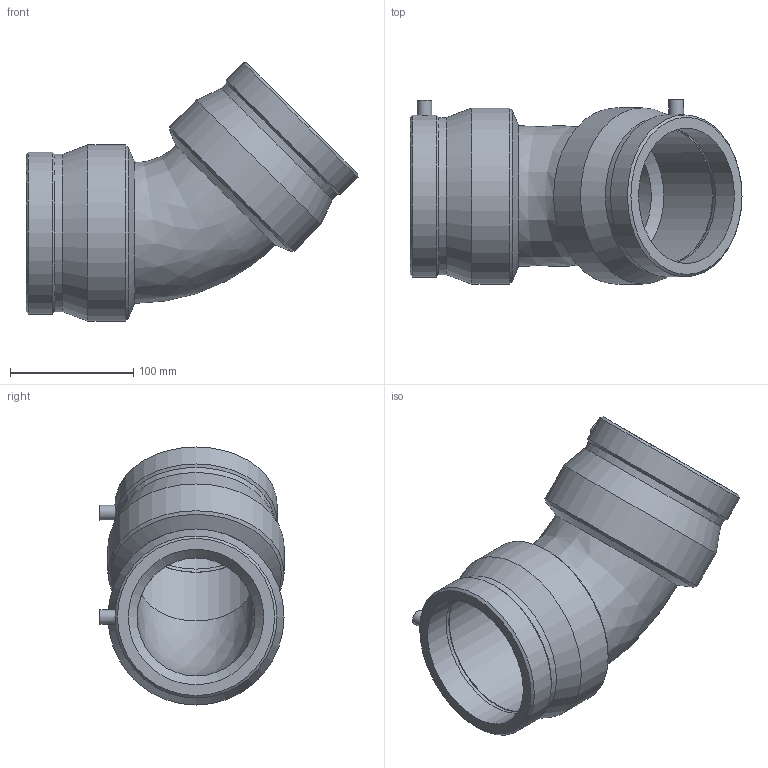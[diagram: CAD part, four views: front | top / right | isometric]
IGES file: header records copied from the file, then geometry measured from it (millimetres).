
Global section: file name: 490604110.ipt; native system: Autodesk Inventor 2015; preprocessor: unknown; author: KIM; date: 20171106.093654; units: millimetre
Bounding box: 269.6 x 149.5 x 209.6 mm (x, y, z)
Volume: 1164216.9 mm3; surface area: 210511.4 mm2
Topology: 1 solids, 1 shells, 42 faces, 98 edges, 64 vertices
Faces by surface type: revolution 12, cone 10, cylinder 10, plane 10
Full cylindrical faces by diameter (mm): 4.8 x2, 12 x2, 127.613 x2, 131.56 x2, 143 x2
